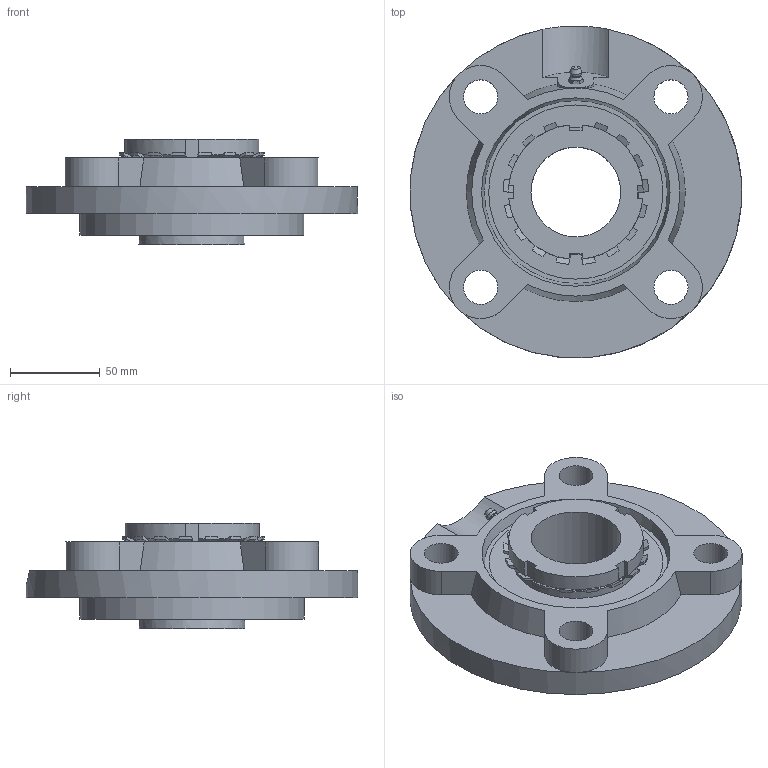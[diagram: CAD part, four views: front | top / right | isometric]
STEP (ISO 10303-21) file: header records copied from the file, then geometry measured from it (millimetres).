
FILE_DESCRIPTION((''),'2;1');
FILE_NAME('\\Ts-tgl068\j-cad-d-base\00.3DCADデータ作成フォルダ\02.フランジ形\UKFC200\UKFC211+H.stp','2014-11-20T16:42:50',('btec_1106_2'),(''),'Autodesk Inventor 2012','Autodesk Inventor 2012','');
FILE_SCHEMA(('AUTOMOTIVE_DESIGN { 1 0 10303 214 1 1 1 1 }'));
Length unit declared in the file: millimetre
Products named in the file (4): UKFC200+H; FC211; UK211; GU1
Assembly tree (3 placements, depth 2):
  UKFC200+H
    FC211
    UK211
    GU1
Bounding box: 184.78 x 184.85 x 59 mm (x, y, z)
Volume: 595065.5 mm3; surface area: 117444.4 mm2
Topology: 3 solids, 3 shells, 226 faces, 612 edges, 399 vertices
Faces by surface type: plane 87, cone 74, cylinder 57, sphere 4, bspline 2, torus 2
Full cylindrical faces by diameter (mm): 5.359 x1, 6.35 x1, 19 x4, 50 x1, 70 x2, 125 x1, 185 x1
Entity records: 7056 total; most frequent: CARTESIAN_POINT 1625, ORIENTED_EDGE 1164, DIRECTION 1087, EDGE_CURVE 582, AXIS2_PLACEMENT_3D 434, VERTEX_POINT 388, EDGE_LOOP 269, FACE_OUTER_BOUND 226
